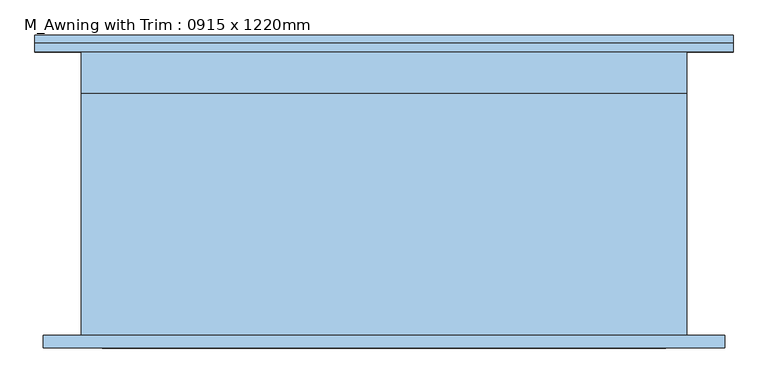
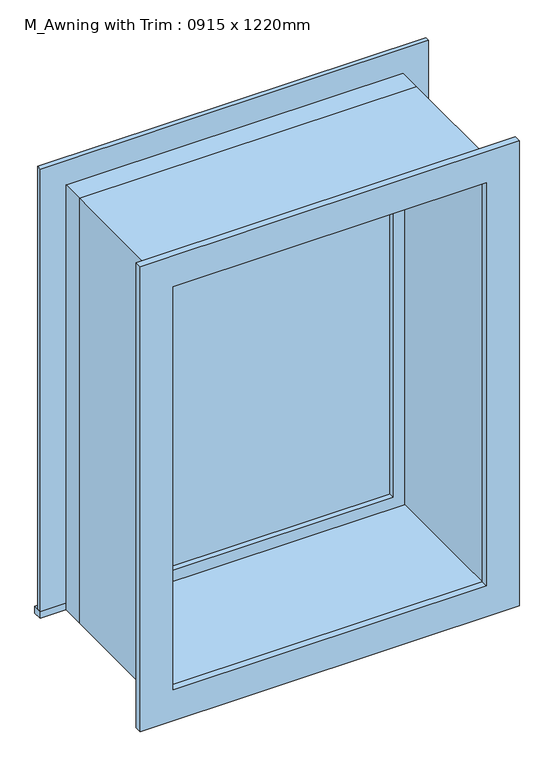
"""IFC4 building model written with IfcOpenShell, lengths in millimetres: window geometry, M_Awning with Trim : 0915 x 1220mm."""

from ifc_helpers import new_model, si_unit, frame, origin, place, context, project, spatial, polyline, outline, extrude, source, transform, mapped, element, save


def m_awning_with_trim_0915_x_1220mm_1a66d356(model_context):
    return source(origin(), model_context, "Body", "SweptSolid", [
        extrude(outline(polyline([(-527.45, 240.2), (527.45, 240.2), (527.45, 214.5), (-527.45, 214.5), (-527.45, 240.2)])), frame((0.0, 0.0, 915.0), z_axis=(0.0, 0.0, 1.0), x_axis=(1.0, 0.0, 0.0)), (0.0, 0.0, 1.0), 19.05),
        extrude(outline(polyline([(2115.95, -438.45), (2115.95, 438.45), (934.05, 438.45), (934.05, 527.45), (2204.95, 527.45), (2204.95, -527.45), (934.05, -527.45), (934.05, -438.45), (2115.95, -438.45)])), frame((0.0, 214.5, 0.0), z_axis=(0.0, 1.0, 0.0), x_axis=(0.0, 0.0, 1.0)), (0.0, 0.0, 1.0), 13.0),
        extrude(outline(polyline([(2192.25, 514.75), (2192.25, -514.75), (857.75, -514.75), (857.75, 514.75), (2192.25, 514.75)]), holes=[polyline([(2103.25, 425.75), (946.75, 425.75), (946.75, -425.75), (2103.25, -425.75), (2103.25, 425.75)])]), frame((0.0, -233.5, 0.0), z_axis=(0.0, 1.0, 0.0), x_axis=(0.0, 0.0, 1.0)), (0.0, 0.0, 1.0), 19.0),
        extrude(outline(polyline([(394.0, 166.925), (-394.0, 166.925), (-394.0, 179.625), (394.0, 179.625), (394.0, 166.925)])), frame((0.0, 0.0, 978.5), z_axis=(0.0, 0.0, 1.0), x_axis=(1.0, 0.0, 0.0)), (0.0, 0.0, 1.0), 1093.0),
        extrude(outline(polyline([(2115.95, -438.45), (934.05, -438.45), (934.05, 438.45), (2115.95, 438.45), (2115.95, -438.45)]), holes=[polyline([(2071.5, -394.0), (2071.5, 394.0), (978.5, 394.0), (978.5, -394.0), (2071.5, -394.0)])]), frame((0.0, 151.05, 0.0), z_axis=(0.0, 1.0, 0.0), x_axis=(0.0, 0.0, 1.0)), (0.0, 0.0, 1.0), 44.45),
        extrude(outline(polyline([(2135.0, -457.5), (915.0, -457.5), (915.0, 457.5), (2135.0, 457.5), (2135.0, -457.5)]), holes=[polyline([(2103.25, -425.75), (2103.25, 425.75), (946.75, 425.75), (946.75, -425.75), (2103.25, -425.75)])]), frame((0.0, -214.5, 0.0), z_axis=(0.0, 1.0, 0.0), x_axis=(0.0, 0.0, 1.0)), (0.0, 0.0, 1.0), 365.55),
        extrude(outline(polyline([(2135.0, 457.5), (2135.0, -457.5), (915.0, -457.5), (915.0, 457.5), (2135.0, 457.5)]), holes=[polyline([(2115.95, 438.45), (934.05, 438.45), (934.05, -438.45), (2115.95, -438.45), (2115.95, 438.45)])]), frame((0.0, 151.05, 0.0), z_axis=(0.0, 1.0, 0.0), x_axis=(0.0, 0.0, 1.0)), (0.0, 0.0, 1.0), 63.45),
    ])


if __name__ == "__main__":
    model = new_model("IFC4")
    model_context = context("Model", 3, world=origin())
    ifc_project = project(units=[si_unit("LENGTHUNIT", "METRE", prefix="MILLI")], contexts=[model_context])
    site = spatial("IfcSite", under=ifc_project)
    building = spatial("IfcBuilding", under=site)
    placement = place(None, origin())
    m_awning_with_trim_0915_x_1220mm_shape = m_awning_with_trim_0915_x_1220mm_1a66d356(model_context)
    element("IfcWindow", 1, ObjectType="M_Awning with Trim : 0915 x 1220mm", at=placement, inside=building, context=model_context, shape_type="MappedRepresentation", body=[
        mapped(m_awning_with_trim_0915_x_1220mm_shape, transform((0.0, 0.0, 0.0), x_axis=(1.0, 0.0, 0.0), y_axis=(0.0, 1.0, 0.0), z_axis=(0.0, 0.0, 1.0))),
    ])
    save(model, "model.ifc")
